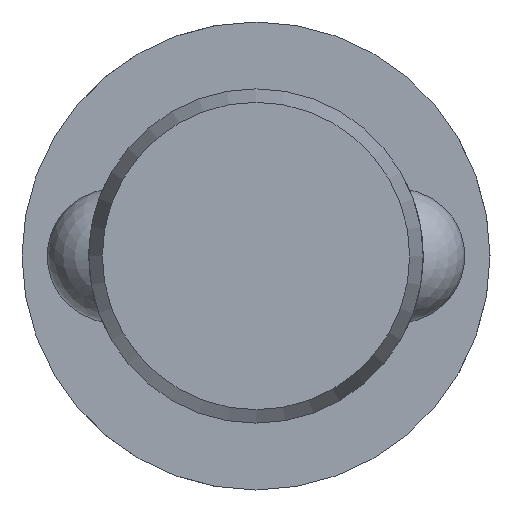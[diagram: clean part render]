
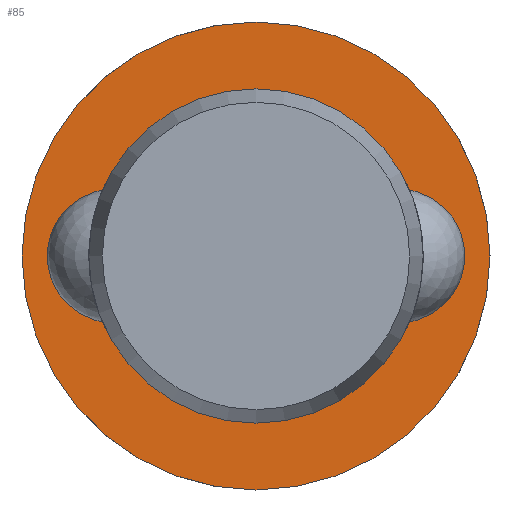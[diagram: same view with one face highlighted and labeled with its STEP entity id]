
A CAD part, left-side view. The second image highlights one B-rep face of the part: STEP entity #85.
In plain terms, the highlighted planar face has unit normal (-1, 0, 0).
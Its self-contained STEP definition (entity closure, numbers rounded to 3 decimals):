
#85 = ADVANCED_FACE( '', ( #131, #132 ), #133, .F. );
#131 = FACE_OUTER_BOUND( '', #204, .T. );
#132 = FACE_BOUND( '', #205, .T. );
#133 = PLANE( '', #206 );
#204 = EDGE_LOOP( '', ( #322 ) );
#205 = EDGE_LOOP( '', ( #323 ) );
#206 = AXIS2_PLACEMENT_3D( '', #324, #325, #326 );
#322 = ORIENTED_EDGE( '', *, *, #470, .F. );
#323 = ORIENTED_EDGE( '', *, *, #467, .T. );
#324 = CARTESIAN_POINT( '', ( 160.5, 10., 0. ) );
#325 = DIRECTION( '', ( 1., 0., 0. ) );
#326 = DIRECTION( '', ( 0., 0., -1. ) );
#467 = EDGE_CURVE( '', #541, #541, #542, .T. );
#470 = EDGE_CURVE( '', #547, #547, #548, .T. );
#541 = VERTEX_POINT( '', #777 );
#542 = CIRCLE( '', #778, 10. );
#547 = VERTEX_POINT( '', #909 );
#548 = CIRCLE( '', #910, 14. );
#777 = CARTESIAN_POINT( '', ( 160.5, 0., -10. ) );
#778 = AXIS2_PLACEMENT_3D( '', #989, #990, #991 );
#909 = CARTESIAN_POINT( '', ( 160.5, 0., -14. ) );
#910 = AXIS2_PLACEMENT_3D( '', #992, #993, #994 );
#989 = CARTESIAN_POINT( '', ( 160.5, 0., 0. ) );
#990 = DIRECTION( '', ( 1., 0., 0. ) );
#991 = DIRECTION( '', ( 0., 0., -1. ) );
#992 = CARTESIAN_POINT( '', ( 160.5, 0., 0. ) );
#993 = DIRECTION( '', ( 1., 0., 0. ) );
#994 = DIRECTION( '', ( 0., 0., -1. ) );
